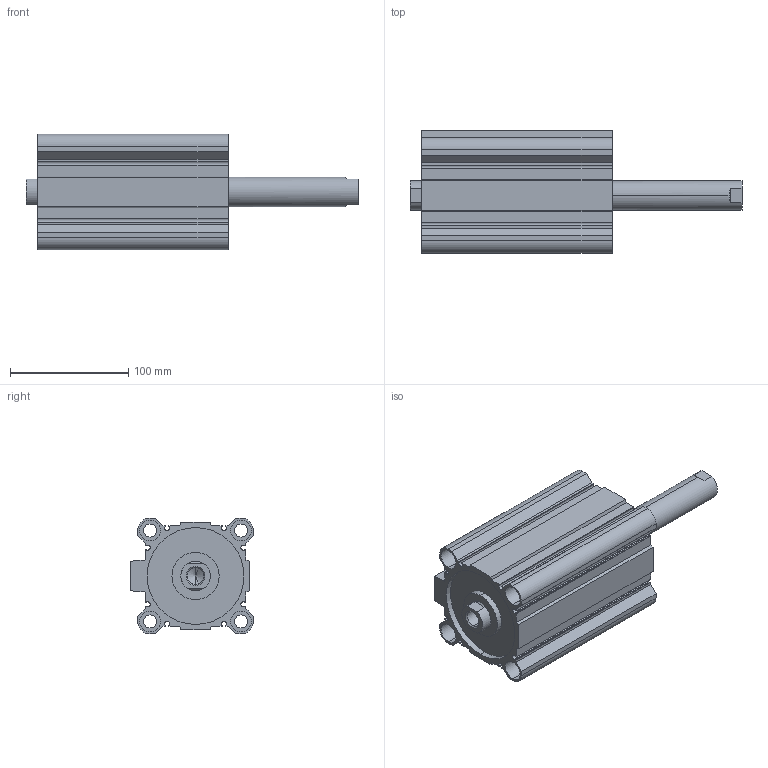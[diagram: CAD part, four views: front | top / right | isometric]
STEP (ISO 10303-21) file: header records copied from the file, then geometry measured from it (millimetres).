
FILE_DESCRIPTION (( 'STEP AP203' ), '1' );
FILE_NAME ('CCMB80-100F-P.STEP', '2020-08-05T11:52:19', ( '' ), ( '' ), 'SwSTEP 2.0', 'SolidWorks 2019', '' );
FILE_SCHEMA (( 'CONFIG_CONTROL_DESIGN' ));
Length unit declared in the file: millimetre
Products named in the file (1): CCMB80-100F-P
Bounding box: 281 x 104 x 98 mm (x, y, z)
Volume: 822431.6 mm3; surface area: 211249.9 mm2
Topology: 2 solids, 2 shells, 176 faces, 450 edges, 294 vertices
Faces by surface type: plane 90, cylinder 74, cone 12
Entity records: 5421 total; most frequent: DIRECTION 948, CARTESIAN_POINT 941, ORIENTED_EDGE 892, EDGE_CURVE 446, AXIS2_PLACEMENT_3D 333, VERTEX_POINT 294, VECTOR 282, LINE 282
